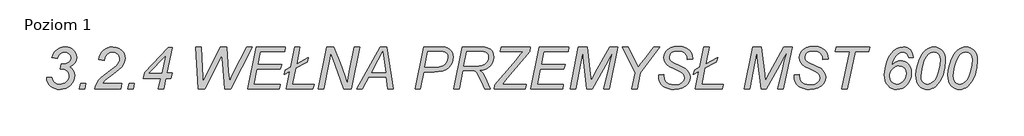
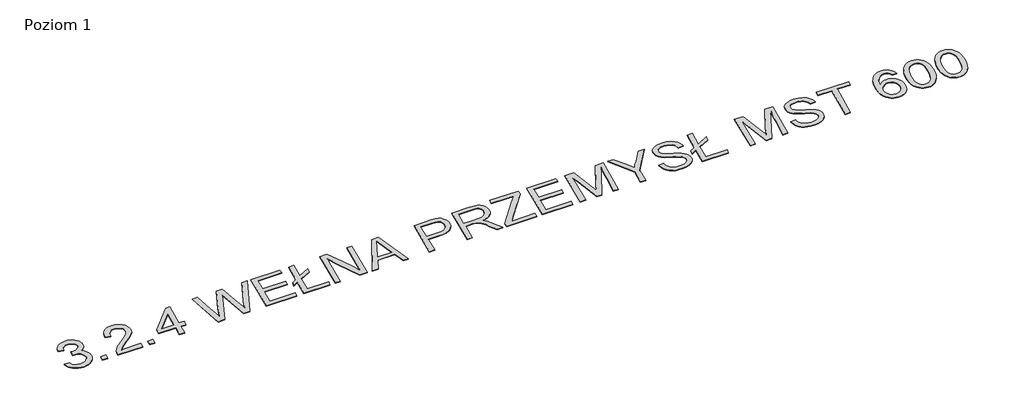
# One storey, part 5 of 8: 1 proxy.
"""IFC4 building model written with IfcOpenShell, lengths in millimetres."""

from ifc_helpers import new_model, si_unit, origin, origin_with_axes, place, context, project, spatial, polyline, outline, extrude, element, save

model = new_model("IFC4")

# Units and contexts
model_context = context("Model", 3, world=origin())
ifc_project = project(units=[si_unit("LENGTHUNIT", "METRE", prefix="MILLI")], contexts=[model_context])

# Site, building, storey
site = spatial("IfcSite", under=ifc_project)
building = spatial("IfcBuilding", under=site)
storey = spatial("IfcBuildingStorey", under=building, Name="Poziom 1", Elevation=0.0)

# Proxy
placement = place(None, origin())
element("IfcBuildingElementProxy", 1, Name="400 mm Arial", ObjectType="400 mm Arial", at=placement, inside=storey, context=model_context, shape_type="SweptSolid", body=[
    extrude(outline(polyline([(26935.3811978, 3434.5109693), (26984.3508948, 3434.5109693), (26993.2457811, 3406.3557846), (27008.8357432, 3387.501973), (27030.7382054, 3376.8496293), (27058.5705917, 3373.298848), (27093.1458758, 3379.2765943), (27108.5325946, 3386.748777), (27122.6520311, 3397.2098329), (27134.4521021, 3409.6017008), (27142.8807243, 3422.8663196), (27147.9378976, 3437.0036894), (27149.623622, 3452.0138102), (27144.7696921, 3476.6301691), (27130.2079023, 3496.536064), (27107.4685557, 3509.6990611), (27078.0819554, 3514.0867268), (27062.6832811, 3514.0867268), (27070.9086599, 3563.9172193), (27084.2031675, 3563.0564238), (27120.440265, 3567.2169352), (27146.7064819, 3579.6984693), (27162.6670643, 3598.2294825), (27167.9872584, 3620.5384314), (27163.4680823, 3641.0540564), (27149.9105539, 3658.0308556), (27129.8014156, 3669.4363954), (27105.6274099, 3673.238242), (27081.3577603, 3669.3527069), (27059.6226751, 3657.6961018), (27042.8132527, 3638.9379342), (27033.3205917, 3613.7477117), (26984.3508948, 3621.6861587), (26991.5929343, 3644.3328502), (27001.5548484, 3664.2596672), (27014.2366369, 3681.4666096), (27029.6383001, 3695.9536776), (27047.1680408, 3707.4399169), (27066.2340624, 3715.6443736), (27086.8363647, 3720.5670476), (27108.9749478, 3722.207939), (27131.9324821, 3720.4564593), (27152.6005396, 3715.2020204), (27170.9791204, 3706.4446222), (27187.0682243, 3694.1842647), (27200.1445441, 3679.3714096), (27209.4847726, 3662.9565185), (27215.0889097, 3644.9395914), (27216.9569554, 3625.3206283), (27212.9996874, 3597.3806426), (27201.1278834, 3573.2425033), (27181.1980775, 3552.9062107), (27153.0668039, 3536.3717647), (27173.1042092, 3520.961135), (27187.3073342, 3502.6572761), (27195.7718228, 3481.484099), (27198.593319, 3457.4655147), (27196.0617435, 3431.3905857), (27188.4670169, 3407.1089806), (27175.8091393, 3384.6206994), (27158.0881107, 3363.925742), (27136.8461895, 3346.6022335), (27113.6256343, 3334.2282988), (27088.4264452, 3326.803938), (27061.248622, 3324.3291511), (27035.2095595, 3326.2061634), (27011.8007054, 3331.8372003), (26991.0220595, 3341.2222619), (26972.873622, 3354.361348), (26957.9053455, 3370.6327732), (26946.6671826, 3389.4148518), (26939.1591334, 3410.7075838), (26935.3811978, 3434.5109693)])), origin_with_axes(), (0.0, 0.0, 1.0), 5.0),
    extrude(outline(polyline([(27242.2069554, 3330.4503632), (27253.6842281, 3379.4200602), (27302.6539251, 3379.4200602), (27292.1330917, 3330.4503632), (27242.2069554, 3330.4503632)])), origin_with_axes(), (0.0, 0.0, 1.0), 5.0),
    extrude(outline(polyline([(27388.3508948, 3330.4503632), (27397.4729355, 3362.7062818), (27409.5360273, 3389.2713859), (27425.2933664, 3412.3813528), (27445.4981485, 3434.2718594), (27531.8168039, 3502.8963859), (27584.8991902, 3545.1710071), (27602.569408, 3564.7062818), (27614.6444554, 3583.9068026), (27619.3788304, 3597.392598), (27620.9569554, 3612.0261208), (27616.067159, 3635.6382183), (27601.3977698, 3655.4006473), (27579.6029071, 3668.7788433), (27553.3366902, 3673.238242), (27526.9748294, 3668.7190658), (27504.1278834, 3655.1615374), (27486.0631343, 3631.6092174), (27474.0478645, 3597.1056662), (27425.0781675, 3603.6094541), (27430.3236398, 3629.6963386), (27438.9824052, 3652.8660829), (27451.0544637, 3673.1186871), (27466.5398152, 3690.4541511), (27484.7868855, 3704.3464333), (27505.1441003, 3714.269492), (27527.6114594, 3720.2233272), (27552.1889629, 3722.207939), (27584.8155018, 3718.6810687), (27614.2140576, 3708.1004579), (27638.5434847, 3691.1475696), (27655.9626372, 3668.503867), (27666.4356485, 3642.5963149), (27669.9266523, 3615.8518783), (27668.1572395, 3596.238893), (27662.8490008, 3576.996528), (27654.0019364, 3558.1247832), (27641.6160463, 3539.6236587), (27607.327694, 3508.0611587), (27539.2770311, 3455.8395677), (27484.9990955, 3411.8433556), (27458.1709705, 3379.4200602), (27639.3205917, 3379.4200602), (27629.6605539, 3330.4503632), (27388.3508948, 3330.4503632)])), origin_with_axes(), (0.0, 0.0, 1.0), 5.0),
    extrude(outline(polyline([(27695.1766523, 3330.4503632), (27706.6539251, 3379.4200602), (27755.623622, 3379.4200602), (27745.1027887, 3330.4503632), (27695.1766523, 3330.4503632)])), origin_with_axes(), (0.0, 0.0, 1.0), 5.0),
    extrude(outline(polyline([(27982.1084705, 3330.4503632), (28001.906766, 3428.3897571), (27841.3205917, 3428.3897571), (27853.563016, 3482.1416511), (28073.9266523, 3716.0867268), (28109.7931296, 3716.0867268), (28061.4929402, 3477.3594541), (28110.6539251, 3477.3594541), (28098.4115008, 3428.3897571), (28051.6416145, 3428.3897571), (28031.843319, 3330.4503632), (27982.1084705, 3330.4503632)]), holes=[polyline([(28011.7580917, 3477.3594541), (28043.0336599, 3632.206992), (27897.1766523, 3477.3594541), (28011.7580917, 3477.3594541)])]), origin_with_axes(), (0.0, 0.0, 1.0), 5.0),
    extrude(outline(polyline([(28355.5024099, 3330.4503632), (28331.0175614, 3722.207939), (28379.9872584, 3722.207939), (28391.1775993, 3527.0943026), (28395.4815766, 3452.205098), (28396.8205917, 3428.1984693), (28401.4115008, 3397.7836965), (28446.842372, 3497.3490374), (28561.6150993, 3722.207939), (28618.7145311, 3722.207939), (28636.0260842, 3492.5668405), (28646.2599857, 3397.7836965), (28661.7543039, 3435.3717647), (28692.3603645, 3496.392598), (28805.9853645, 3722.207939), (28860.5024099, 3722.207939), (28656.5895311, 3330.4503632), (28600.3508948, 3330.4503632), (28581.7959705, 3566.7865374), (28572.8054402, 3642.6321814), (28546.8859326, 3585.6283935), (28416.4275993, 3330.4503632), (28355.5024099, 3330.4503632)])), origin_with_axes(), (0.0, 0.0, 1.0), 5.0),
    extrude(outline(polyline([(28814.593319, 3330.4503632), (28894.1690766, 3722.207939), (29169.623622, 3722.207939), (29163.406766, 3679.3594541), (28935.2003266, 3679.3594541), (28910.3329023, 3556.9352117), (29132.8963493, 3556.9352117), (29120.6539251, 3514.0867268), (28901.6293039, 3514.0867268), (28873.031766, 3373.298848), (29118.5497584, 3373.298848), (29109.3679402, 3330.4503632), (28814.593319, 3330.4503632)])), origin_with_axes(), (0.0, 0.0, 1.0), 5.0),
    extrude(outline(polyline([(29208.7419932, 3493.0450602), (29157.3811978, 3465.1170299), (29169.623622, 3507.9655147), (29217.063016, 3533.7893783), (29255.3205917, 3722.207939), (29305.0554402, 3722.207939), (29272.9190766, 3564.0128632), (29383.8660463, 3624.268545), (29371.623622, 3581.4200602), (29264.6936978, 3523.364189), (29234.1832811, 3373.298848), (29438.9569554, 3373.298848), (29426.7145311, 3330.4503632), (29175.7448342, 3330.4503632), (29208.7419932, 3493.0450602)])), origin_with_axes(), (0.0, 0.0, 1.0), 5.0),
    extrude(outline(polyline([(29475.6842281, 3330.4503632), (29555.2599857, 3722.207939), (29622.593319, 3722.207939), (29681.8925614, 3570.612295), (29724.9323342, 3453.831045), (29746.0696448, 3379.4200602), (29767.6851751, 3490.5583177), (29812.7334705, 3722.207939), (29862.3726751, 3722.207939), (29786.2400993, 3330.4503632), (29713.9332811, 3330.4503632), (29632.9228645, 3555.5005526), (29593.4219175, 3665.0128632), (29573.8149099, 3568.3168405), (29525.4190766, 3330.4503632), (29475.6842281, 3330.4503632)])), origin_with_axes(), (0.0, 0.0, 1.0), 5.0),
    extrude(outline(polyline([(29834.6359326, 3330.4503632), (30053.8518417, 3722.207939), (30115.8291145, 3722.207939), (30177.5194554, 3330.4503632), (30128.0715387, 3330.4503632), (30112.3859326, 3440.6321814), (29949.313016, 3440.6321814), (29889.5355539, 3330.4503632), (29834.6359326, 3330.4503632)]), holes=[polyline([(29974.6586599, 3483.4806662), (30106.3603645, 3483.4806662), (30092.5876372, 3581.4200602), (30078.623622, 3679.3594541), (30035.4882054, 3599.7836965), (29974.6586599, 3483.4806662)])]), origin_with_axes(), (0.0, 0.0, 1.0), 5.0),
    extrude(outline(polyline([(30381.623622, 3330.4503632), (30460.8168039, 3722.207939), (30624.0810084, 3722.207939), (30661.1669459, 3719.7690185), (30687.6842281, 3712.4522571), (30707.0760368, 3699.2294825), (30722.7855539, 3679.0725223), (30733.1868323, 3654.0138102), (30736.6539251, 3626.0857799), (30734.1791381, 3601.5889759), (30726.7547773, 3576.6856852), (30715.5524809, 3553.7789617), (30701.7438872, 3535.2718594), (30686.5365008, 3520.9730905), (30671.1378266, 3510.691367), (30637.9493796, 3498.4011208), (30600.0504686, 3491.801689), (30561.7211599, 3489.6018783), (30463.5904781, 3489.6018783), (30431.4541145, 3330.4503632), (30381.623622, 3330.4503632)]), holes=[polyline([(30472.2940766, 3532.4503632), (30560.2865008, 3532.4503632), (30604.6533332, 3535.1762155), (30635.4148152, 3543.3537723), (30656.9227461, 3557.1145441), (30673.5289251, 3576.5900412), (30684.1454023, 3599.6043641), (30687.6842281, 3623.9816132), (30685.7713493, 3641.5322761), (30680.0327129, 3655.5441132), (30670.8030728, 3666.172546), (30658.4171826, 3673.5729958), (30638.0450235, 3677.9128395), (30604.8565766, 3679.3594541), (30502.0393417, 3679.3594541), (30472.2940766, 3532.4503632)])]), origin_with_axes(), (0.0, 0.0, 1.0), 5.0),
    extrude(outline(polyline([(30742.7751372, 3330.4503632), (30822.3508948, 3722.207939), (30987.8149099, 3722.207939), (31030.8666381, 3720.1276833), (31062.0824289, 3713.8869162), (31084.6543985, 3701.9075128), (31101.7746637, 3682.611348), (31112.5704734, 3656.6679295), (31116.1690766, 3624.7467647), (31114.2322868, 3601.349866), (31108.4219175, 3580.033223), (31098.7379686, 3560.7968357), (31085.1804402, 3543.6407041), (31067.3010013, 3528.9414262), (31044.6513209, 3517.0755999), (31017.231399, 3508.0432254), (30985.0412357, 3501.8443026), (31003.7635368, 3487.5216227), (31017.2732432, 3473.4380526), (31036.4259421, 3438.2171719), (31051.4181296, 3401.800742), (31085.467372, 3330.4503632), (31032.0024099, 3330.4503632), (30997.7618796, 3402.1833177), (30982.6262262, 3438.5758367), (30965.529872, 3469.707939), (30951.9364771, 3486.0989191), (30937.7453076, 3495.6752685), (30918.7480302, 3500.3020441), (30890.7363114, 3501.8443026), (30827.3243796, 3501.8443026), (30792.5099857, 3330.4503632), (30742.7751372, 3330.4503632)]), holes=[polyline([(30836.0279781, 3544.6927874), (30911.1084705, 3544.6927874), (30978.9200235, 3544.6927874), (31005.879659, 3549.6662723), (31027.4593228, 3558.4655147), (31044.2328787, 3571.0307373), (31056.7741902, 3587.3021624), (31064.5930823, 3606.108152), (31067.1993796, 3626.2770677), (31065.2147679, 3642.7397808), (31059.2609326, 3656.9309503), (31050.0791145, 3667.8941369), (31038.4105539, 3674.6729011), (31020.9794459, 3678.1878158), (30994.5099857, 3679.3594541), (30863.3821448, 3679.3594541), (30836.0279781, 3544.6927874)])]), origin_with_axes(), (0.0, 0.0, 1.0), 5.0),
    extrude(outline(polyline([(31122.2902887, 3330.4503632), (31128.4115008, 3367.1776359), (31325.2467281, 3601.5052874), (31366.1823342, 3649.9967647), (31390.7628266, 3679.3594541), (31355.6615008, 3679.3594541), (31342.6539251, 3679.3594541), (31326.968319, 3679.3594541), (31311.5696448, 3679.3594541), (31178.3376372, 3679.3594541), (31187.6150993, 3722.207939), (31458.9569554, 3722.207939), (31453.8878266, 3681.176689), (31243.375516, 3430.6852117), (31195.1709705, 3373.298848), (31210.0914251, 3373.298848), (31419.7429402, 3373.298848), (31410.4654781, 3330.4503632), (31122.2902887, 3330.4503632)])), origin_with_axes(), (0.0, 0.0, 1.0), 5.0),
    extrude(outline(polyline([(31465.0781675, 3330.4503632), (31544.6539251, 3722.207939), (31820.1084705, 3722.207939), (31813.8916145, 3679.3594541), (31585.6851751, 3679.3594541), (31560.8177508, 3556.9352117), (31783.3811978, 3556.9352117), (31771.1387735, 3514.0867268), (31552.1141523, 3514.0867268), (31523.5166145, 3373.298848), (31769.0346069, 3373.298848), (31759.8527887, 3330.4503632), (31465.0781675, 3330.4503632)])), origin_with_axes(), (0.0, 0.0, 1.0), 5.0),
    extrude(outline(polyline([(31831.6813872, 3330.4503632), (31908.1008948, 3722.207939), (31991.5980539, 3722.207939), (32021.2476751, 3468.9427874), (32028.0383948, 3404.7657041), (32067.9219175, 3482.8111587), (32200.3887735, 3722.207939), (32277.8603645, 3722.207939), (32194.7457811, 3330.4503632), (32144.5327129, 3330.4503632), (32190.5374478, 3518.6776359), (32205.7209232, 3590.6975223), (32231.3774099, 3673.238242), (32204.0710652, 3630.7484219), (32180.686122, 3587.2543405), (32038.4635842, 3330.4503632), (31988.250516, 3330.4503632), (31958.8878266, 3581.611348), (31948.1757054, 3673.238242), (31929.812069, 3578.8376738), (31881.3205917, 3330.4503632), (31831.6813872, 3330.4503632)])), origin_with_axes(), (0.0, 0.0, 1.0), 5.0),
    extrude(outline(polyline([(32407.7448342, 3330.4503632), (32438.1596069, 3480.4200602), (32319.8480539, 3722.207939), (32373.4086599, 3722.207939), (32430.7950235, 3609.1568026), (32467.5222963, 3529.9636208), (32490.6442186, 3565.973564), (32523.4740008, 3604.7571814), (32611.3707811, 3722.207939), (32670.5743796, 3722.207939), (32487.0336599, 3476.4986587), (32457.4796826, 3330.4503632), (32407.7448342, 3330.4503632)])), origin_with_axes(), (0.0, 0.0, 1.0), 5.0),
    extrude(outline(polyline([(32658.7145311, 3458.9958177), (32707.6842281, 3465.1170299), (32707.1103645, 3450.9617268), (32709.6927508, 3428.5093121), (32717.4399099, 3408.017598), (32731.1409042, 3390.7180005), (32751.5847963, 3377.8419352), (32777.6238588, 3369.8437107), (32808.1103645, 3367.1776359), (32849.15357, 3372.3424087), (32865.523628, 3378.7983746), (32879.1259895, 3387.8367268), (32897.4537593, 3409.9543878), (32903.563016, 3434.989189), (32900.358944, 3452.6594068), (32890.7467281, 3468.7514996), (32866.4531675, 3486.3499844), (32819.5876372, 3509.3045299), (32757.9929402, 3539.9105905), (32735.5644364, 3557.987295), (32719.9266523, 3577.5943026), (32710.7448342, 3599.4250318), (32707.6842281, 3624.1729011), (32711.6654071, 3652.770439), (32723.608944, 3678.4986587), (32743.2159516, 3699.9109456), (32770.1875425, 3715.5606852), (32802.8140813, 3725.1370346), (32839.3859326, 3728.3291511), (32881.7801088, 3724.2284172), (32916.9531675, 3711.9262155), (32944.1877792, 3692.7854721), (32962.7666145, 3668.1691132), (32973.4548247, 3641.4366321), (32977.0175614, 3615.9475223), (32977.0175614, 3607.7221435), (32928.0478645, 3603.6094541), (32925.2741902, 3630.676689), (32918.7106249, 3646.4459835), (32909.3494743, 3659.5133367), (32896.5810084, 3670.081992), (32879.795497, 3678.3551927), (32859.8896021, 3683.6992979), (32837.7599857, 3685.4806662), (32801.3674667, 3680.6506473), (32786.5785226, 3674.6131236), (32774.061122, 3666.1605905), (32761.0057243, 3649.0164143), (32756.6539251, 3627.0422193), (32758.4592044, 3613.3651359), (32763.8750425, 3601.2183556), (32774.0013446, 3589.9323708), (32789.938016, 3578.8376738), (32853.5412357, 3548.1359693), (32909.779872, 3518.8689238), (32927.9761315, 3503.2311397), (32941.438016, 3484.6283935), (32949.7590387, 3463.1563291), (32952.5327129, 3438.9105905), (32947.8222489, 3408.4599513), (32933.6908569, 3380.4243215), (32911.2503976, 3356.6448471), (32881.6127319, 3338.9626738), (32845.973409, 3327.9875318), (32805.5279781, 3324.3291511), (32774.6439523, 3326.1583414), (32746.7428218, 3331.6459124), (32721.8245868, 3340.7918641), (32699.889247, 3353.5961965), (32681.9829083, 3371.1588149), (32669.151676, 3394.5796246), (32661.3955503, 3423.8586255), (32658.7145311, 3458.9958177)])), origin_with_axes(), (0.0, 0.0, 1.0), 5.0),
    extrude(outline(polyline([(33034.499569, 3493.0450602), (32983.1387735, 3465.1170299), (32995.3811978, 3507.9655147), (33042.8205917, 3533.7893783), (33081.0781675, 3722.207939), (33130.813016, 3722.207939), (33098.6766523, 3564.0128632), (33209.623622, 3624.268545), (33197.3811978, 3581.4200602), (33090.4512735, 3523.364189), (33059.9408569, 3373.298848), (33264.7145311, 3373.298848), (33252.4721069, 3330.4503632), (33001.5024099, 3330.4503632), (33034.499569, 3493.0450602)])), origin_with_axes(), (0.0, 0.0, 1.0), 5.0),
    extrude(outline(polyline([(33459.9238114, 3330.4503632), (33536.343319, 3722.207939), (33619.8404781, 3722.207939), (33649.4900993, 3468.9427874), (33656.280819, 3404.7657041), (33696.1643417, 3482.8111587), (33828.6311978, 3722.207939), (33906.1027887, 3722.207939), (33822.9882054, 3330.4503632), (33772.7751372, 3330.4503632), (33818.779872, 3518.6776359), (33833.9633474, 3590.6975223), (33859.6198342, 3673.238242), (33832.3134895, 3630.7484219), (33808.9285463, 3587.2543405), (33666.7060084, 3330.4503632), (33616.4929402, 3330.4503632), (33587.1302508, 3581.611348), (33576.4181296, 3673.238242), (33558.0544932, 3578.8376738), (33509.563016, 3330.4503632), (33459.9238114, 3330.4503632)])), origin_with_axes(), (0.0, 0.0, 1.0), 5.0),
    extrude(outline(polyline([(33925.8054402, 3458.9958177), (33974.7751372, 3465.1170299), (33974.2012735, 3450.9617268), (33976.7836599, 3428.5093121), (33984.530819, 3408.017598), (33998.2318133, 3390.7180005), (34018.6757054, 3377.8419352), (34044.7147679, 3369.8437107), (34075.2012735, 3367.1776359), (34116.244479, 3372.3424087), (34132.614537, 3378.7983746), (34146.2168985, 3387.8367268), (34164.5446684, 3409.9543878), (34170.6539251, 3434.989189), (34167.4498531, 3452.6594068), (34157.8376372, 3468.7514996), (34133.5440766, 3486.3499844), (34086.6785463, 3509.3045299), (34025.0838493, 3539.9105905), (34002.6553455, 3557.987295), (33987.0175614, 3577.5943026), (33977.8357432, 3599.4250318), (33974.7751372, 3624.1729011), (33978.7563162, 3652.770439), (33990.6998531, 3678.4986587), (34010.3068607, 3699.9109456), (34037.2784516, 3715.5606852), (34069.9049904, 3725.1370346), (34106.4768417, 3728.3291511), (34148.8710179, 3724.2284172), (34184.0440766, 3711.9262155), (34211.2786883, 3692.7854721), (34229.8575235, 3668.1691132), (34240.5457338, 3641.4366321), (34244.1084705, 3615.9475223), (34244.1084705, 3607.7221435), (34195.1387735, 3603.6094541), (34192.3650993, 3630.676689), (34185.801534, 3646.4459835), (34176.4403834, 3659.5133367), (34163.6719175, 3670.081992), (34146.8864061, 3678.3551927), (34126.9805112, 3683.6992979), (34104.8508948, 3685.4806662), (34068.4583758, 3680.6506473), (34053.6694317, 3674.6131236), (34041.1520311, 3666.1605905), (34028.0966334, 3649.0164143), (34023.7448342, 3627.0422193), (34025.5501135, 3613.3651359), (34030.9659516, 3601.2183556), (34041.0922537, 3589.9323708), (34057.0289251, 3578.8376738), (34120.6321448, 3548.1359693), (34176.8707811, 3518.8689238), (34195.0670406, 3503.2311397), (34208.5289251, 3484.6283935), (34216.8499478, 3463.1563291), (34219.623622, 3438.9105905), (34214.913158, 3408.4599513), (34200.781766, 3380.4243215), (34178.3413067, 3356.6448471), (34148.703641, 3338.9626738), (34113.0643181, 3327.9875318), (34072.6188872, 3324.3291511), (34041.7348614, 3326.1583414), (34013.8337309, 3331.6459124), (33988.9154959, 3340.7918641), (33966.9801561, 3353.5961965), (33949.0738173, 3371.1588149), (33936.2425851, 3394.5796246), (33928.4864594, 3423.8586255), (33925.8054402, 3458.9958177)])), origin_with_axes(), (0.0, 0.0, 1.0), 5.0),
    extrude(outline(polyline([(34372.6539251, 3330.4503632), (34446.7779781, 3679.3594541), (34311.4418039, 3679.3594541), (34320.719266, 3722.207939), (34632.8054402, 3722.207939), (34623.5279781, 3679.3594541), (34496.6084705, 3679.3594541), (34422.4844175, 3330.4503632), (34372.6539251, 3330.4503632)])), origin_with_axes(), (0.0, 0.0, 1.0), 5.0),
    extrude(outline(polyline([(34836.2400993, 3551.1009314), (34856.7557243, 3569.7514996), (34877.1757054, 3583.0460071), (34897.4522205, 3591.0083651), (34917.5374478, 3593.6624844), (34939.0872229, 3591.7466167), (34958.6882527, 3585.9990138), (34976.3405373, 3576.4196755), (34992.0440766, 3563.0086018), (35004.9320974, 3546.351612), (35014.1378266, 3527.0345251), (35019.6612641, 3505.0573412), (35021.5024099, 3480.4200602), (35018.7586244, 3448.0924087), (35010.5272679, 3418.1558556), (34996.8083403, 3390.6104011), (34977.6018417, 3365.456045), (34957.6481249, 3347.4630289), (34935.6619743, 3334.6108746), (34911.64339, 3326.8995819), (34885.592372, 3324.3291511), (34861.9862522, 3326.5468949), (34840.4245217, 3333.2001265), (34820.9071803, 3344.2888457), (34803.4342281, 3359.8130526), (34789.0398152, 3379.4379934), (34778.7580917, 3402.8289143), (34772.5890576, 3429.9858154), (34770.5327129, 3460.9086965), (34775.8170406, 3520.6383367), (34791.6700235, 3582.3764996), (34809.938016, 3626.2651123), (34832.031766, 3661.7131473), (34856.7915908, 3688.7923376), (34883.0578076, 3707.5744162), (34911.8107669, 3718.5495583), (34944.030819, 3722.207939), (34963.4674608, 3720.6238362), (34981.0330681, 3715.871528), (34996.7276407, 3707.9510142), (35010.5511789, 3696.862295), (35022.0493737, 3682.8205692), (35030.7679165, 3666.0410355), (35036.7068074, 3646.5236942), (35039.8660463, 3624.268545), (34995.2003266, 3624.268545), (34988.6845832, 3646.5894494), (34976.7888682, 3661.7131473), (34960.613087, 3670.3569683), (34941.2571448, 3673.238242), (34919.0916618, 3669.1494636), (34896.7827129, 3656.8831283), (34875.9801561, 3636.5946577), (34858.3338493, 3608.439473), (34844.7763209, 3578.0605668), (34836.2400993, 3551.1009314)]), holes=[polyline([(34819.5024099, 3443.7884314), (34824.6074052, 3416.3266653), (34839.922391, 3393.6231852), (34861.6694317, 3378.3799323), (34886.0705917, 3373.298848), (34904.6613825, 3376.3953206), (34924.2803455, 3385.6847382), (34942.8950472, 3401.2986113), (34958.4730539, 3423.3684503), (34969.0177982, 3448.6064948), (34972.5327129, 3473.7249844), (34967.654872, 3502.7409645), (34953.0213493, 3525.3248897), (34931.5014629, 3539.850813), (34905.9645311, 3544.6927874), (34890.3237582, 3542.9263634), (34875.2508711, 3537.6270914), (34846.8087546, 3516.4300033), (34834.8622288, 3501.2913611), (34826.3289961, 3484.1382183), (34821.2090565, 3464.9705751), (34819.5024099, 3443.7884314)])]), origin_with_axes(), (0.0, 0.0, 1.0), 5.0),
    extrude(outline(polyline([(35064.3508948, 3458.8045299), (35068.1288304, 3508.6469778), (35079.4626372, 3559.2784882), (35095.4112641, 3605.1875791), (35113.0336599, 3640.8627685), (35131.8396495, 3668.0973802), (35151.3390576, 3688.6847382), (35171.0177982, 3703.6649702), (35190.3617849, 3714.0782041), (35210.6024336, 3720.1755052), (35232.9711599, 3722.207939), (35254.8437333, 3720.1306721), (35274.8392944, 3713.8988717), (35292.9578432, 3703.5125377), (35309.1993796, 3688.97167), (35322.5895311, 3670.5094008), (35332.1539251, 3648.3588623), (35337.8925614, 3622.5200542), (35339.8054402, 3592.9929768), (35334.4972016, 3528.7680715), (35318.5724857, 3465.2126738), (35304.8595359, 3430.0635261), (35288.6837546, 3399.6009314), (35270.0451419, 3373.8248897), (35248.9436978, 3352.7354011), (35231.225658, 3340.3076667), (35212.312069, 3331.4307136), (35192.2029307, 3326.1045417), (35170.8982432, 3324.3291511), (35149.3454793, 3326.4811397), (35129.544195, 3332.9371056), (35111.4943903, 3343.6970488), (35095.1960652, 3358.7609693), (35081.7013031, 3377.9256236), (35072.0621874, 3400.9877685), (35066.2787179, 3427.9474039), (35064.3508948, 3458.8045299)]), holes=[polyline([(35113.3205917, 3451.7268783), (35116.3094648, 3421.9098802), (35125.2760842, 3399.4096435), (35134.3921471, 3387.9861705), (35145.4808664, 3379.8265469), (35158.5422418, 3374.9307728), (35173.5762735, 3373.298848), (35200.2609326, 3379.2048613), (35224.4588493, 3396.9229011), (35239.9770785, 3415.4569032), (35253.4389629, 3437.8704626), (35264.8445027, 3464.1635793), (35274.1936978, 3494.3362533), (35286.6752319, 3552.6671009), (35290.8357432, 3599.2098329), (35286.8067423, 3633.031921), (35274.7197395, 3655.878867), (35256.0333048, 3668.8983982), (35232.2060084, 3673.238242), (35213.6271732, 3670.9427874), (35196.3395311, 3664.0564238), (35180.0561504, 3651.5748897), (35164.4900993, 3632.4939238), (35144.2853171, 3593.1842647), (35126.9020311, 3538.1889996), (35116.7159516, 3489.7453443), (35113.3205917, 3451.7268783)])]), origin_with_axes(), (0.0, 0.0, 1.0), 5.0),
    extrude(outline(polyline([(35364.2902887, 3458.8045299), (35368.0682243, 3508.6469778), (35379.4020311, 3559.2784882), (35395.350658, 3605.1875791), (35412.9730539, 3640.8627685), (35431.7790434, 3668.0973802), (35451.2784516, 3688.6847382), (35470.9571921, 3703.6649702), (35490.3011789, 3714.0782041), (35510.5418275, 3720.1755052), (35532.9105539, 3722.207939), (35554.7831272, 3720.1306721), (35574.7786883, 3713.8988717), (35592.8972371, 3703.5125377), (35609.1387735, 3688.97167), (35622.5289251, 3670.5094008), (35632.093319, 3648.3588623), (35637.8319554, 3622.5200542), (35639.7448342, 3592.9929768), (35634.4365955, 3528.7680715), (35618.5118796, 3465.2126738), (35604.7989298, 3430.0635261), (35588.6231485, 3399.6009314), (35569.9845359, 3373.8248897), (35548.8830917, 3352.7354011), (35531.165052, 3340.3076667), (35512.2514629, 3331.4307136), (35492.1423247, 3326.1045417), (35470.8376372, 3324.3291511), (35449.2848732, 3326.4811397), (35429.4835889, 3332.9371056), (35411.4337842, 3343.6970488), (35395.1354592, 3358.7609693), (35381.6406971, 3377.9256236), (35372.0015813, 3400.9877685), (35366.2181119, 3427.9474039), (35364.2902887, 3458.8045299)]), holes=[polyline([(35413.2599857, 3451.7268783), (35416.2488588, 3421.9098802), (35425.2154781, 3399.4096435), (35434.3315411, 3387.9861705), (35445.4202603, 3379.8265469), (35458.4816358, 3374.9307728), (35473.5156675, 3373.298848), (35500.2003266, 3379.2048613), (35524.3982432, 3396.9229011), (35539.9164724, 3415.4569032), (35553.3783569, 3437.8704626), (35564.7838967, 3464.1635793), (35574.1330917, 3494.3362533), (35586.6146258, 3552.6671009), (35590.7751372, 3599.2098329), (35586.7461362, 3633.031921), (35574.6591334, 3655.878867), (35555.9726987, 3668.8983982), (35532.1454023, 3673.238242), (35513.5665671, 3670.9427874), (35496.2789251, 3664.0564238), (35479.9955444, 3651.5748897), (35464.4294932, 3632.4939238), (35444.224711, 3593.1842647), (35426.8414251, 3538.1889996), (35416.6553455, 3489.7453443), (35413.2599857, 3451.7268783)])]), origin_with_axes(), (0.0, 0.0, 1.0), 5.0),
])

save(model, "model.ifc")
